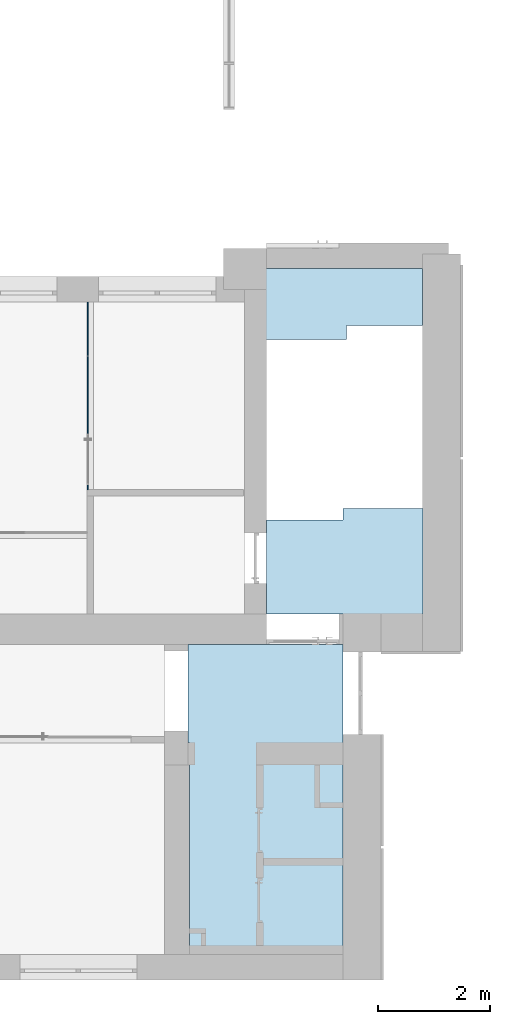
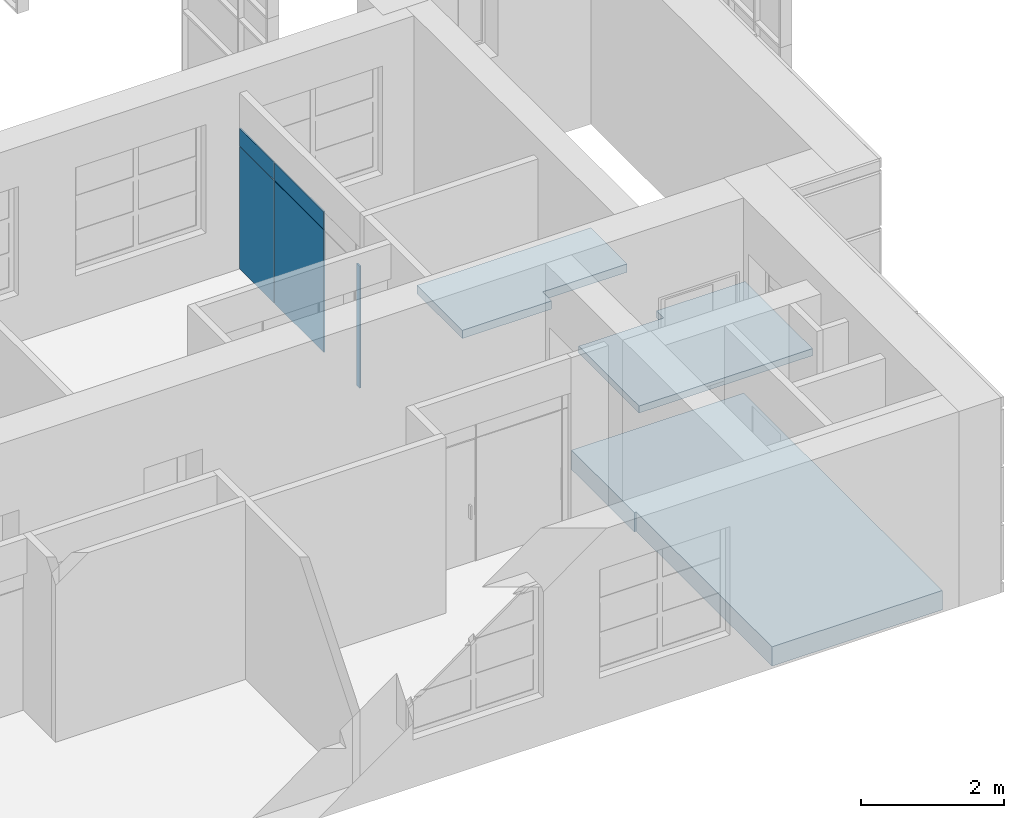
# One storey, part 31 of 73: 6 plates, 3 slabs, 1 element without a shape of its own.
"""IFC2X3 building model written with IfcOpenShell, lengths in millimetres."""

import ifcopenshell
import ifcopenshell.guid

model = None  # the IFC model being written
_history = None  # IfcOwnerHistory: only IFC2X3 demands one
_inside = {}  # id of a spatial element -> (the spatial element, [elements in it])
_under = {}  # id of a project, library or spatial element -> (it, [spatial elements below it])
_declared = {}  # id of a project -> (the project, [libraries it declares])
_typed = {}  # id of a type object -> (the type object, [elements of that type])
_made_of = {}  # id of a material, layer set ... -> (it, [elements and type objects made of it])


def new_model(schema):
    """Start an empty IFC model of exactly this schema.

    Asked for "IFC4X3", IfcOpenShell would pick the latest addendum, in which some entities
    have other attributes; the version numbers below select the first issue.
    IFC2X3 requires an IfcOwnerHistory on every rooted entity: one is made here for all.
    """
    global model, _history
    if schema == "IFC4X3":
        model = ifcopenshell.file(schema_version=(4, 3, 0, 0))
    else:
        model = ifcopenshell.file(schema=schema)
    _inside.clear()
    _under.clear()
    _declared.clear()
    _typed.clear()
    _made_of.clear()
    _history = None
    if model.schema == "IFC2X3":
        org = make("IfcOrganization", Name="unknown")
        user = make(
            "IfcPersonAndOrganization",
            ThePerson=make("IfcPerson", FamilyName="unknown"),
            TheOrganization=org,
        )
        app = make(
            "IfcApplication",
            ApplicationDeveloper=org,
            Version="unknown",
            ApplicationFullName="unknown",
            ApplicationIdentifier="unknown",
        )
        _history = make(
            "IfcOwnerHistory",
            OwningUser=user,
            OwningApplication=app,
            ChangeAction="ADDED",
            CreationDate=0,
        )
    return model


def make(cls, **values):
    """One entity of the class cls with the attributes given. An attribute that is None is left unset."""
    return model.create_entity(
        cls, **{name: value for name, value in values.items() if value is not None}
    )


def entity(cls, *values):
    """Any entity or typed value of the class cls, its attributes in the order of the schema. None: left unset."""
    e = model.create_entity(cls)
    for i, value in enumerate(values):
        if value is not None:
            e[i] = value
    return e


def rooted(cls, **values):
    """An entity with a GlobalId (a new one), such as an element, a storey or a relation."""
    return make(cls, GlobalId=ifcopenshell.guid.new(), OwnerHistory=_history, **values)


def si_unit(unit_type, name, prefix=None):
    """IfcSIUnit, for example si_unit("LENGTHUNIT", "METRE", prefix="MILLI")."""
    return make("IfcSIUnit", UnitType=unit_type, Prefix=prefix, Name=name)


def converted_unit(unit_type, name, factor, base, dimensions=None, offset=None):
    """IfcConversionBasedUnit, such as the inch: factor (a typed value) times the base unit."""
    return make(
        "IfcConversionBasedUnit"
        if offset is None
        else "IfcConversionBasedUnitWithOffset",
        ConversionOffset=offset,
        Dimensions=None
        if dimensions is None
        else entity("IfcDimensionalExponents", *dimensions),
        UnitType=unit_type,
        Name=name,
        ConversionFactor=make(
            "IfcMeasureWithUnit", ValueComponent=factor, UnitComponent=base
        ),
    )


def derived_unit(unit_type, elements):
    """IfcDerivedUnit: a product of units, each with its exponent."""
    return make(
        "IfcDerivedUnit",
        Elements=[
            make("IfcDerivedUnitElement", Unit=unit, Exponent=power)
            for unit, power in elements
        ],
        UnitType=unit_type,
    )


def assignment(units):
    """IfcUnitAssignment: the units of a project."""
    return None if units is None else make("IfcUnitAssignment", Units=units)


def point(xyz):
    """IfcCartesianPoint."""
    return None if xyz is None else make("IfcCartesianPoint", Coordinates=xyz)


def direction(xyz):
    """IfcDirection."""
    return None if xyz is None else make("IfcDirection", DirectionRatios=xyz)


def frame(location, z_axis=None, x_axis=None):
    """IfcAxis2Placement3D, a coordinate frame: its origin and axes. An axis left out is left unset."""
    return make(
        "IfcAxis2Placement3D",
        Location=point(location),
        Axis=direction(z_axis),
        RefDirection=direction(x_axis),
    )


def frame_2d(location, x_axis=None):
    """IfcAxis2Placement2D, a coordinate frame in the plane: its origin and x axis."""
    return make(
        "IfcAxis2Placement2D", Location=point(location), RefDirection=direction(x_axis)
    )


def origin():
    """The frame at (0, 0, 0) with its axes left unset."""
    return frame((0.0, 0.0, 0.0))


def origin_2d_with_axis():
    """The frame at (0, 0) in the plane with the x axis (1, 0) written out."""
    return frame_2d((0.0, 0.0), x_axis=(1.0, 0.0))


def place(relative_to, where):
    """IfcLocalPlacement: puts the frame where relative to a parent placement (None: the world)."""
    return make(
        "IfcLocalPlacement", PlacementRelTo=relative_to, RelativePlacement=where
    )


def context(
    kind, dimensions, precision=None, world=None, true_north=None, identifier=None
):
    """IfcGeometricRepresentationContext, for example the 3D "Model" context."""
    return make(
        "IfcGeometricRepresentationContext",
        ContextIdentifier=identifier,
        ContextType=kind,
        CoordinateSpaceDimension=dimensions,
        Precision=precision,
        WorldCoordinateSystem=world,
        TrueNorth=true_north,
    )


def subcontext(parent, identifier, kind, view, scale=None):
    """IfcGeometricRepresentationSubContext, for example "Body" below "Model"."""
    return make(
        "IfcGeometricRepresentationSubContext",
        ContextIdentifier=identifier,
        ContextType=kind,
        ParentContext=parent,
        TargetScale=scale,
        TargetView=view,
    )


def project(units=None, contexts=None):
    """IfcProject with its units and contexts."""
    return rooted(
        "IfcProject",
        Name="project",
        RepresentationContexts=contexts,
        UnitsInContext=assignment(units),
    )


def spatial(cls, under=None, at=None, **own):
    """A site, building, storey or space (cls), placed at a placement, below another one or the project."""
    s = rooted(cls, ObjectPlacement=at, **own)
    if under is not None:
        _under.setdefault(under.id(), (under, []))[1].append(s)
    return s


def polyline(points):
    """IfcPolyline through the points."""
    return make("IfcPolyline", Points=[point(p) for p in points])


def profile(cls, at=None, kind="AREA", **sizes):
    """A parametric profile (cls). Its sizes go by their IFC names, for example OverallWidth=200.0."""
    return make(cls, ProfileType=kind, Position=at, **sizes)


def rectangle(**sizes):
    """IfcRectangleProfileDef."""
    return profile("IfcRectangleProfileDef", **sizes)


def outline(outer, holes=None, kind="AREA"):
    """IfcArbitraryClosedProfileDef: a profile drawn as a closed curve; with holes, ...WithVoids."""
    if holes is None:
        return make("IfcArbitraryClosedProfileDef", ProfileType=kind, OuterCurve=outer)
    return make(
        "IfcArbitraryProfileDefWithVoids",
        ProfileType=kind,
        OuterCurve=outer,
        InnerCurves=holes,
    )


def extrude(swept, where, along, depth):
    """IfcExtrudedAreaSolid: the profile swept, set in the frame where, extruded along a direction by depth."""
    return make(
        "IfcExtrudedAreaSolid",
        SweptArea=swept,
        Position=where,
        ExtrudedDirection=direction(along),
        Depth=depth,
    )


def shape(context_of_items, identifier, shape_type, items):
    """IfcShapeRepresentation: the items that make up one representation, for example the "Body"."""
    return make(
        "IfcShapeRepresentation",
        ContextOfItems=context_of_items,
        RepresentationIdentifier=identifier,
        RepresentationType=shape_type,
        Items=items,
    )


def source(mapping_origin, context_of_items, identifier, shape_type, items):
    """IfcRepresentationMap: a shape defined once, which mapped items show again and again."""
    return make(
        "IfcRepresentationMap",
        MappingOrigin=mapping_origin,
        MappedRepresentation=shape(context_of_items, identifier, shape_type, items),
    )


def transform(
    local_origin,
    x_axis=None,
    y_axis=None,
    z_axis=None,
    scale=None,
    scale2=None,
    scale3=None,
    uniform=True,
):
    """IfcCartesianTransformationOperator3D, or its non-uniform kind. x_axis, y_axis, z_axis: its Axis1, 2, 3."""
    if uniform:
        return make(
            "IfcCartesianTransformationOperator3D",
            Axis1=direction(x_axis),
            Axis2=direction(y_axis),
            LocalOrigin=point(local_origin),
            Scale=scale,
            Axis3=direction(z_axis),
        )
    return make(
        "IfcCartesianTransformationOperator3DnonUniform",
        Axis1=direction(x_axis),
        Axis2=direction(y_axis),
        LocalOrigin=point(local_origin),
        Scale=scale,
        Axis3=direction(z_axis),
        Scale2=scale2,
        Scale3=scale3,
    )


def mapped(mapping_source, mapping_target):
    """IfcMappedItem: shows the shape of a source again, moved by a transform."""
    return make(
        "IfcMappedItem", MappingSource=mapping_source, MappingTarget=mapping_target
    )


def material(Name=None, Category=None):
    """IfcMaterial."""
    return make("IfcMaterial", Name=Name, Category=Category)


def layer(
    of_material, thickness, ventilated=None, Name=None, Category=None, Priority=None
):
    """IfcMaterialLayer: one layer of a wall or slab, of a material (None: an air gap)."""
    return make(
        "IfcMaterialLayer",
        Material=of_material,
        LayerThickness=thickness,
        IsVentilated=ventilated,
        Name=Name,
        Category=Category,
        Priority=Priority,
    )


def layer_set(layers, Name=None):
    """IfcMaterialLayerSet."""
    return make("IfcMaterialLayerSet", MaterialLayers=layers, LayerSetName=Name)


def layer_usage(for_layer_set, set_direction, sense, offset, extent=None):
    """IfcMaterialLayerSetUsage: how a layer set lies in its element."""
    return make(
        "IfcMaterialLayerSetUsage",
        ForLayerSet=for_layer_set,
        LayerSetDirection=set_direction,
        DirectionSense=sense,
        OffsetFromReferenceLine=offset,
        ReferenceExtent=extent,
    )


def made_of(thing, what):
    """Note that an element or type object is made of a material, layer set ...; save() writes the relation."""
    if what is not None:
        _made_of.setdefault(what.id(), (what, []))[1].append(thing)
    return thing


def type_object(cls, material=None, **own):
    """A type object (cls), such as IfcWallType, which elements share."""
    return made_of(rooted(cls, **own), material)


def type_shapes(of_type, sources):
    """Give a type object the sources (RepresentationMaps) that its elements show as mapped items."""
    of_type.RepresentationMaps = sources


def element(
    cls,
    number,
    at=None,
    inside=None,
    cuts=None,
    type_object=None,
    material=None,
    context=None,
    identifier="Body",
    shape_type=None,
    held_by="IfcProductDefinitionShape",
    body=None,
    shapes=None,
    **own,
):
    """One element of the class cls, such as IfcWall. Its Tag is "e" and its number.

    at: its placement. inside: the storey or other place that contains it. cuts: it is an
    opening in that element (IfcRelVoidsElement). A single representation is given by context,
    identifier, shape_type and body (its items); several are given by shapes. held_by: the class
    of the entity that holds the representations. save() writes the other relations.
    """
    e = rooted(cls, Tag="e%d" % number, ObjectPlacement=at, **own)
    if body is not None:
        shapes = [shape(context, identifier, shape_type, body)]
    if shapes is not None:
        e.Representation = make(held_by, Representations=shapes)
    if inside is not None:
        _inside.setdefault(inside.id(), (inside, []))[1].append(e)
    if cuts is not None:
        rooted(
            "IfcRelVoidsElement", RelatingBuildingElement=cuts, RelatedOpeningElement=e
        )
    if type_object is not None:
        _typed.setdefault(type_object.id(), (type_object, []))[1].append(e)
    return made_of(e, material)


def aggregate(whole, parts):
    """IfcRelAggregates: a whole, such as a stair, and the parts it consists of."""
    return rooted("IfcRelAggregates", RelatingObject=whole, RelatedObjects=parts)


def save(model, path):
    """Write the relations noted so far, then the file.

    IfcRelAggregates (storeys below a building ...), IfcRelContainedInSpatialStructure (elements
    in a storey), IfcRelDefinesByType, IfcRelAssociatesMaterial and IfcRelDeclares: one each for
    every whole, place, type object, material and project.
    """
    for whole, parts in _under.values():
        aggregate(whole, parts)
    for where, things in _inside.values():
        rooted(
            "IfcRelContainedInSpatialStructure",
            RelatedElements=things,
            RelatingStructure=where,
        )
    for kind, things in _typed.values():
        rooted("IfcRelDefinesByType", RelatedObjects=things, RelatingType=kind)
    for what, things in _made_of.values():
        rooted("IfcRelAssociatesMaterial", RelatedObjects=things, RelatingMaterial=what)
    for by, libraries in _declared.values():
        rooted("IfcRelDeclares", RelatingContext=by, RelatedDefinitions=libraries)
    model.write(path)


model = new_model("IFC2X3")

# Units and contexts
model_context = context("Model", 3, precision=0.01, world=origin(), true_north=direction((6.12303176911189e-17, 1.0)))
body_context = subcontext(model_context, "Body", "Model", "MODEL_VIEW")
ifc_project = project(units=[si_unit("LENGTHUNIT", "METRE", prefix="MILLI"), si_unit("AREAUNIT", "SQUARE_METRE"), si_unit("VOLUMEUNIT", "CUBIC_METRE"), converted_unit("PLANEANGLEUNIT", "DEGREE", entity("IfcRatioMeasure", 0.0174532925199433), si_unit("PLANEANGLEUNIT", "RADIAN"), dimensions=[0, 0, 0, 0, 0, 0, 0]), si_unit("MASSUNIT", "GRAM", prefix="KILO"), derived_unit("MASSDENSITYUNIT", [(si_unit("MASSUNIT", "GRAM", prefix="KILO"), 1), (si_unit("LENGTHUNIT", "METRE"), -3)]), si_unit("TIMEUNIT", "SECOND"), si_unit("FREQUENCYUNIT", "HERTZ"), si_unit("THERMODYNAMICTEMPERATUREUNIT", "DEGREE_CELSIUS"), derived_unit("THERMALTRANSMITTANCEUNIT", [(si_unit("MASSUNIT", "GRAM", prefix="KILO"), 1), (si_unit("THERMODYNAMICTEMPERATUREUNIT", "KELVIN"), -1), (si_unit("TIMEUNIT", "SECOND"), -3)]), derived_unit("VOLUMETRICFLOWRATEUNIT", [(si_unit("LENGTHUNIT", "METRE"), 3), (si_unit("TIMEUNIT", "SECOND"), -1)]), si_unit("ELECTRICCURRENTUNIT", "AMPERE"), si_unit("ELECTRICVOLTAGEUNIT", "VOLT"), si_unit("POWERUNIT", "WATT"), si_unit("FORCEUNIT", "NEWTON", prefix="KILO"), si_unit("ILLUMINANCEUNIT", "LUX"), si_unit("LUMINOUSFLUXUNIT", "LUMEN"), si_unit("LUMINOUSINTENSITYUNIT", "CANDELA"), derived_unit("USERDEFINED", [(si_unit("MASSUNIT", "GRAM", prefix="KILO"), -1), (si_unit("LENGTHUNIT", "METRE"), -2), (si_unit("TIMEUNIT", "SECOND"), 3), (si_unit("LUMINOUSFLUXUNIT", "LUMEN"), 1)]), derived_unit("LINEARVELOCITYUNIT", [(si_unit("LENGTHUNIT", "METRE"), 1), (si_unit("TIMEUNIT", "SECOND"), -1)]), si_unit("PRESSUREUNIT", "PASCAL"), derived_unit("USERDEFINED", [(si_unit("LENGTHUNIT", "METRE"), -2), (si_unit("MASSUNIT", "GRAM", prefix="KILO"), 1), (si_unit("TIMEUNIT", "SECOND"), -2)])], contexts=[model_context])

# Site, building, storey
site_placement = place(None, frame((-151.875543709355, 2715.0, 0.0)))
site = spatial("IfcSite", under=ifc_project, at=site_placement, Name="Surface", CompositionType="ELEMENT")
building_placement = place(site_placement, origin())
building = spatial("IfcBuilding", under=site, at=building_placement, CompositionType="ELEMENT")
storey_placement = place(building_placement, frame((0.0, 0.0, 6730.43000000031)))
storey = spatial("IfcBuildingStorey", under=building, at=storey_placement, Name="3 korrus", CompositionType="ELEMENT", Elevation=6730.43000000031)

# Curtain wall, plates
curtain_wall_type = type_object("IfcCurtainWallType", Name="Curtain Wall:Klaassein KLS-22", PredefinedType="NOTDEFINED")
curtain_wall_placement = place(storey_placement, frame((0.0, 0.0, -6730.43000000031)))
curtain_wall = element("IfcCurtainWall", 1, at=curtain_wall_placement, inside=storey, type_object=curtain_wall_type, Name="Curtain Wall:Klaassein KLS-22", ObjectType="Curtain Wall:Klaassein KLS-22")
ifc_material_1 = material(Name="<Unnamed>")
ifc_layer_1 = layer(ifc_material_1, 20.0)
ifc_layer_set_1 = layer_set([ifc_layer_1], Name="Curtain Wall:Klaassein KLS-01")
ifc_layer_usage_1 = layer_usage(ifc_layer_set_1, "AXIS3", "POSITIVE", 0.0)
plate_type_1 = type_object("IfcPlateType", Name="Glazed", PredefinedType="CURTAIN_PANEL", material=ifc_layer_set_1)
shared_shape_1 = source(origin(), body_context, "Body", "SweptSolid", [
    extrude(rectangle(XDim=20.0, YDim=1378.52311291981, at=origin_2d_with_axis()), frame((0.0, 0.0, 0.0), z_axis=(0.0, 0.0, 1.0), x_axis=(0.0, 1.0, 0.0)), (0.0, 0.0, 1.0), 2090.0),
])
type_shapes(plate_type_1, [shared_shape_1])
plate_1_placement = place(curtain_wall_placement, frame((29165.6162681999, 10489.091280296, 6730.43000000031), z_axis=(0.0, 0.0, 1.0), x_axis=(0.0, -1.0, 0.0)))
plate_1 = element("IfcPlate", 2, at=plate_1_placement, type_object=plate_type_1, material=ifc_layer_usage_1, Name="System Panel:Glazed", ObjectType="Glazed", context=body_context, shape_type="MappedRepresentation", body=[
    mapped(shared_shape_1, transform((0.0, 0.0, 0.0), scale=1.0)),
])
ifc_layer_usage_2 = layer_usage(ifc_layer_set_1, "AXIS3", "POSITIVE", 0.0)
plate_type_2 = type_object("IfcPlateType", Name="Glazed", PredefinedType="CURTAIN_PANEL", material=ifc_layer_set_1)
shared_shape_2 = source(origin(), body_context, "Body", "SweptSolid", [
    extrude(rectangle(XDim=20.0, YDim=1388.52311291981, at=origin_2d_with_axis()), frame((0.0, 0.0, 0.0), z_axis=(0.0, 0.0, 1.0), x_axis=(0.0, 1.0, 0.0)), (0.0, 0.0, 1.0), 9.99999999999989),
])
type_shapes(plate_type_2, [shared_shape_2])
plate_2_placement = place(curtain_wall_placement, frame((29165.6162681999, 10484.091280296, 8820.43000000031), z_axis=(0.0, 0.0, 1.0), x_axis=(0.0, -1.0, 0.0)))
plate_2 = element("IfcPlate", 3, at=plate_2_placement, type_object=plate_type_2, material=ifc_layer_usage_2, Name="System Panel:Glazed", ObjectType="Glazed", context=body_context, shape_type="MappedRepresentation", body=[
    mapped(shared_shape_2, transform((0.0, 0.0, 0.0), scale=1.0)),
])
ifc_layer_usage_3 = layer_usage(ifc_layer_set_1, "AXIS3", "POSITIVE", 0.0)
plate_type_3 = type_object("IfcPlateType", Name="Glazed", PredefinedType="CURTAIN_PANEL", material=ifc_layer_set_1)
shared_shape_3 = source(origin(), body_context, "Body", "SweptSolid", [
    extrude(rectangle(XDim=20.0, YDim=1378.52311291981, at=origin_2d_with_axis()), frame((0.0, 0.0, 0.0), z_axis=(0.0, 0.0, 1.0), x_axis=(0.0, 1.0, 0.0)), (0.0, 0.0, 1.0), 299.999999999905),
])
type_shapes(plate_type_3, [shared_shape_3])
plate_3_placement = place(curtain_wall_placement, frame((29165.6162681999, 10489.091280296, 8830.43000000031), z_axis=(0.0, 0.0, 1.0), x_axis=(0.0, -1.0, 0.0)))
plate_3 = element("IfcPlate", 4, at=plate_3_placement, type_object=plate_type_3, material=ifc_layer_usage_3, Name="System Panel:Glazed", ObjectType="Glazed", context=body_context, shape_type="MappedRepresentation", body=[
    mapped(shared_shape_3, transform((0.0, 0.0, 0.0), scale=1.0)),
])
ifc_layer_usage_4 = layer_usage(ifc_layer_set_1, "AXIS3", "POSITIVE", 0.0)
plate_type_4 = type_object("IfcPlateType", Name="Glazed", PredefinedType="CURTAIN_PANEL", material=ifc_layer_set_1)
shared_shape_4 = source(origin(), body_context, "Body", "SweptSolid", [
    extrude(rectangle(XDim=20.0, YDim=89.9999999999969, at=origin_2d_with_axis()), frame((0.0, 0.0, 0.0), z_axis=(0.0, 0.0, 1.0), x_axis=(0.0, 1.0, 0.0)), (0.0, 0.0, 1.0), 2080.0),
])
type_shapes(plate_type_4, [shared_shape_4])
plate_4_placement = place(curtain_wall_placement, frame((29165.6162681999, 8834.8297238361, 6730.43000000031), z_axis=(0.0, 0.0, 1.0), x_axis=(0.0, -1.0, 0.0)))
plate_4 = element("IfcPlate", 5, at=plate_4_placement, type_object=plate_type_4, material=ifc_layer_usage_4, Name="System Panel:Glazed", ObjectType="Glazed", context=body_context, shape_type="MappedRepresentation", body=[
    mapped(shared_shape_4, transform((0.0, 0.0, 0.0), scale=1.0)),
])
ifc_layer_usage_5 = layer_usage(ifc_layer_set_1, "AXIS3", "POSITIVE", 0.0)
plate_type_5 = type_object("IfcPlateType", Name="Glazed", PredefinedType="CURTAIN_PANEL", material=ifc_layer_set_1)
shared_shape_5 = source(origin(), body_context, "Body", "SweptSolid", [
    extrude(rectangle(XDim=20.0, YDim=960.647163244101, at=origin_2d_with_axis()), frame((0.0, 0.0, 0.0), z_axis=(0.0, 0.0, 1.0), x_axis=(0.0, 1.0, 0.0)), (0.0, 0.0, 1.0), 2090.0),
])
type_shapes(plate_type_5, [shared_shape_5])
plate_5_placement = place(curtain_wall_placement, frame((29165.6162681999, 11669.676418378, 6730.43000000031), z_axis=(0.0, 0.0, 1.0), x_axis=(0.0, -1.0, 0.0)))
plate_5 = element("IfcPlate", 6, at=plate_5_placement, type_object=plate_type_5, material=ifc_layer_usage_5, Name="System Panel:Glazed", ObjectType="Glazed", context=body_context, shape_type="MappedRepresentation", body=[
    mapped(shared_shape_5, transform((0.0, 0.0, 0.0), scale=1.0)),
])
ifc_layer_usage_6 = layer_usage(ifc_layer_set_1, "AXIS3", "POSITIVE", 0.0)
plate_type_6 = type_object("IfcPlateType", Name="Glazed", PredefinedType="CURTAIN_PANEL", material=ifc_layer_set_1)
shared_shape_6 = source(origin(), body_context, "Body", "SweptSolid", [
    extrude(rectangle(XDim=20.0, YDim=960.647163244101, at=origin_2d_with_axis()), frame((0.0, 0.0, 0.0), z_axis=(0.0, 0.0, 1.0), x_axis=(0.0, 1.0, 0.0)), (0.0, 0.0, 1.0), 299.999999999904),
])
type_shapes(plate_type_6, [shared_shape_6])
plate_6_placement = place(curtain_wall_placement, frame((29165.6162681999, 11669.676418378, 8830.43000000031), z_axis=(0.0, 0.0, 1.0), x_axis=(0.0, -1.0, 0.0)))
plate_6 = element("IfcPlate", 7, at=plate_6_placement, type_object=plate_type_6, material=ifc_layer_usage_6, Name="System Panel:Glazed", ObjectType="Glazed", context=body_context, shape_type="MappedRepresentation", body=[
    mapped(shared_shape_6, transform((0.0, 0.0, 0.0), scale=1.0)),
])
aggregate(curtain_wall, [plate_5, plate_1, plate_4, plate_2, plate_6, plate_3])

# Slabs
ifc_material_2 = material(Name="Viimistlus")
ifc_layer_2 = layer(ifc_material_2, 20.0)
ifc_material_3 = material(Name="Betoon")
ifc_layer_3 = layer(ifc_material_3, 30.0)
ifc_material_4 = material(Name="Helisummutusvill")
ifc_layer_4 = layer(ifc_material_4, 30.0)
ifc_material_5 = material(Name="__Kergkruus")
ifc_layer_5 = layer(ifc_material_5, 30.0)
ifc_material_6 = material(Name="Betoon paneel")
ifc_layer_6 = layer(ifc_material_6, 220.0)
ifc_layer_set_2 = layer_set([ifc_layer_2, ifc_layer_3, ifc_layer_4, ifc_layer_5, ifc_layer_6], Name="Floor:VL-1_vahelagi olemasolevas hoones")
ifc_layer_usage_7 = layer_usage(ifc_layer_set_2, "AXIS3", "POSITIVE", 0.0)
slab_1_placement = place(storey_placement, origin())
element("IfcSlab", 8, at=slab_1_placement, inside=storey, material=ifc_layer_usage_7, Name="Floor:VL-1_vahelagi olemasolevas hoones", ObjectType="Floor:VL-1_vahelagi olemasolevas hoones", PredefinedType="FLOOR", context=body_context, shape_type="SweptSolid", body=[
    extrude(outline(polyline([(679.260388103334, -935.866369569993), (2435.41748966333, -935.866369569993), (2435.41748966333, 1841.73273914), (-3114.67787776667, 1841.73273914), (-3114.67787776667, -905.866369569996), (679.260388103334, -905.866369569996), (679.260388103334, -935.866369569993)])), frame((31899.88352897, 3574.58251033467, 0.00203353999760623), z_axis=(0.0, 0.0, -1.0), x_axis=(0.0, 1.0, 0.0)), (0.0, 0.0, 1.0), 330.0),
])
ifc_material_7 = material(Name="Betoonplaat")
ifc_layer_7 = layer(ifc_material_7, 120.0)
ifc_layer_set_3 = layer_set([ifc_layer_7], Name="Floor:Trepimade1")
ifc_layer_usage_8 = layer_usage(ifc_layer_set_3, "AXIS3", "POSITIVE", 0.0)
slab_2_placement = place(storey_placement, origin())
element("IfcSlab", 9, at=slab_2_placement, inside=storey, material=ifc_layer_usage_8, Name="Floor:Trepimade1", ObjectType="Floor:Trepimade1", PredefinedType="FLOOR", context=body_context, shape_type="SweptSolid", body=[
    extrude(outline(polyline([(-1191.70434455, -1389.33333333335), (495.017728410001, -1389.33333333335), (495.017728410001, -20.3333333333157), (696.686616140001, -20.3333333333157), (696.686616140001, 1409.66666666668), (-1191.70434455, 1409.66666666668), (-1191.70434455, -1389.33333333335)])), frame((33761.9496015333, 7751.70434455, -75.7120777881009), z_axis=(0.0, 0.0, -1.0), x_axis=(0.0, 1.0, 0.0)), (0.0, 0.0, 1.0), 120.0),
])
ifc_layer_8 = layer(ifc_material_7, 140.0)
ifc_layer_set_4 = layer_set([ifc_layer_8], Name="Floor:Trepimade2")
ifc_layer_usage_9 = layer_usage(ifc_layer_set_4, "AXIS3", "POSITIVE", 0.0)
slab_3_placement = place(storey_placement, origin())
element("IfcSlab", 10, at=slab_3_placement, inside=storey, material=ifc_layer_usage_9, Name="Floor:Trepimade2", ObjectType="Floor:Trepimade2", PredefinedType="FLOOR", context=body_context, shape_type="SweptSolid", body=[
    extrude(outline(polyline([(-506.362340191, -1414.33333333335), (762.135126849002, -1414.33333333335), (762.135126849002, 1389.66666666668), (-255.772786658, 1389.66666666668), (-255.772786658, 24.6666666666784), (-506.362340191, 24.6666666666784), (-506.362340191, -1414.33333333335)])), frame((33776.9496015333, 11987.864873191, -1766.86655777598), z_axis=(0.0, 0.0, -1.0), x_axis=(0.0, 1.0, 0.0)), (0.0, 0.0, 1.0), 140.0),
])

save(model, "model.ifc")
